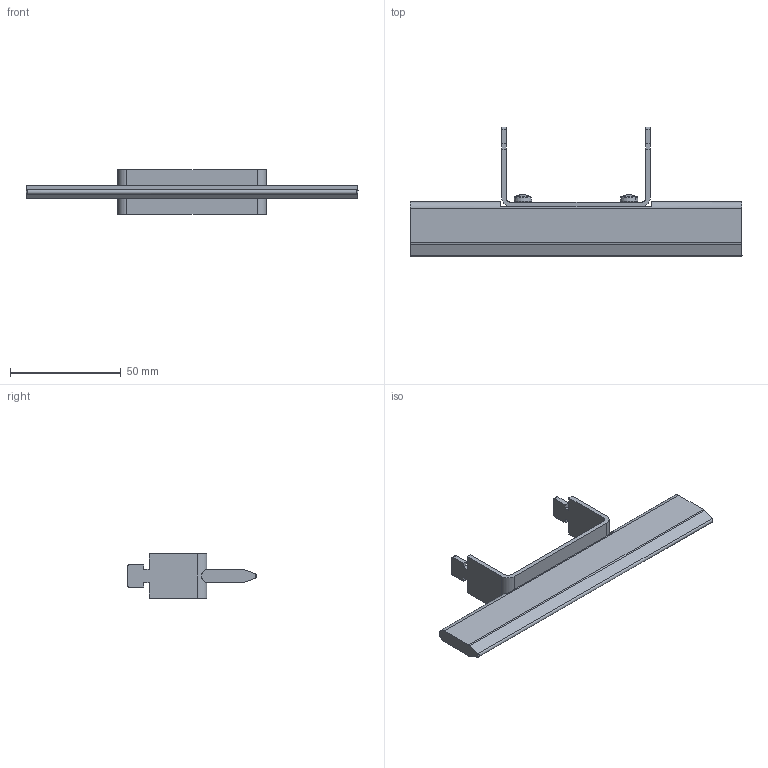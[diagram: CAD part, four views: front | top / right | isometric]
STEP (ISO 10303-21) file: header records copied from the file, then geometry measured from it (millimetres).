
FILE_DESCRIPTION (( 'STEP AP214' ), '1' );
FILE_NAME ('ZP2.step', '2011-08-23T10:41:50', ( 'Radek Veselý' ), ( 'Siemens and Partners' ), 'SwSTEP 2.0', 'SolidWorks 2006303', '' );
FILE_SCHEMA (( 'AUTOMOTIVE_DESIGN' ));
Length unit declared in the file: millimetre
Products named in the file (1): ZP2
Bounding box: 150 x 58.7 x 20 mm (x, y, z)
Volume: 24188.6 mm3; surface area: 14654.9 mm2
Topology: 4 solids, 4 shells, 143 faces, 376 edges, 238 vertices
Faces by surface type: plane 81, cylinder 36, cone 12, torus 8, sphere 4, bspline 2
Entity records: 6484 total; most frequent: CARTESIAN_POINT 1357, ORIENTED_EDGE 736, DIRECTION 732, EDGE_CURVE 368, AXIS2_PLACEMENT_3D 258, VERTEX_POINT 238, VECTOR 216, LINE 216
